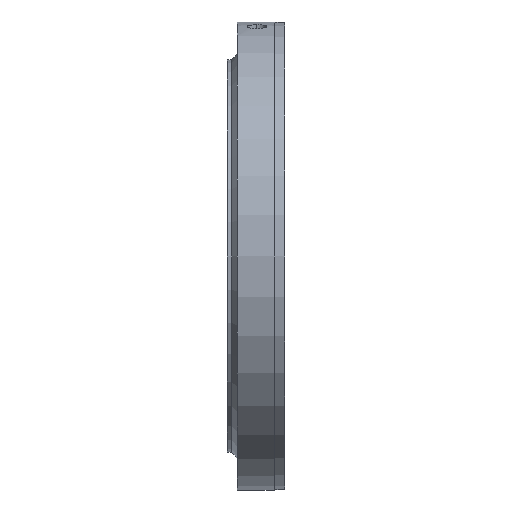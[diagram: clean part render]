
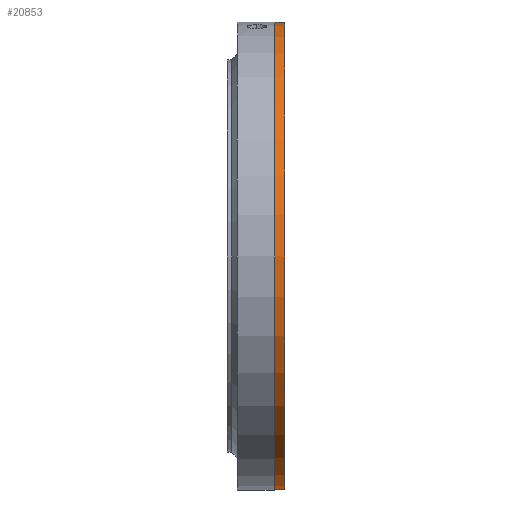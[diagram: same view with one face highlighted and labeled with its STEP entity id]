
A CAD part, left-side view. The second image highlights one B-rep face of the part: STEP entity #20853.
In plain terms, the highlighted cylindrical face has radius 237 mm (diameter 474 mm), a partial arc.
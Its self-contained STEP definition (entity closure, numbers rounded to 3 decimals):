
#1145 = VERTEX_POINT ( 'NONE', #7453 ) ;
#2892 = EDGE_CURVE ( 'NONE', #21639, #1145, #13272, .T. ) ;
#4400 = CARTESIAN_POINT ( 'NONE',  ( 0., -1.866, 0. ) ) ;
#4692 = EDGE_LOOP ( 'NONE', ( #14580, #10938, #22767, #5162 ) ) ;
#4969 = EDGE_CURVE ( 'NONE', #8798, #20807, #19828, .T. ) ;
#5040 = CARTESIAN_POINT ( 'NONE',  ( 0., 0., 0. ) ) ;
#5162 = ORIENTED_EDGE ( 'NONE', *, *, #4969, .F. ) ;
#6302 = CARTESIAN_POINT ( 'NONE',  ( 0., -1.866, 237. ) ) ;
#6772 = VECTOR ( 'NONE', #17110, 1000. ) ;
#6967 = LINE ( 'NONE', #21009, #6772 ) ;
#7453 = CARTESIAN_POINT ( 'NONE',  ( 0., 8.134, -237. ) ) ;
#8702 = DIRECTION ( 'NONE',  ( 0., 0., -1. ) ) ;
#8798 = VERTEX_POINT ( 'NONE', #6302 ) ;
#9643 = VECTOR ( 'NONE', #18759, 1000. ) ;
#9689 = CARTESIAN_POINT ( 'NONE',  ( 0., 8.134, 237. ) ) ;
#9706 = DIRECTION ( 'NONE',  ( 0., 0., -1. ) ) ;
#10938 = ORIENTED_EDGE ( 'NONE', *, *, #2892, .T. ) ;
#10942 = AXIS2_PLACEMENT_3D ( 'NONE', #5040, #19096, #8702 ) ;
#11450 = DIRECTION ( 'NONE',  ( 0., -1., 0. ) ) ;
#13178 = CARTESIAN_POINT ( 'NONE',  ( 0., 8.134, 0. ) ) ;
#13272 = CIRCLE ( 'NONE', #13641, 237. ) ;
#13335 = LINE ( 'NONE', #14966, #9643 ) ;
#13583 = AXIS2_PLACEMENT_3D ( 'NONE', #4400, #15334, #15103 ) ;
#13641 = AXIS2_PLACEMENT_3D ( 'NONE', #13178, #11450, #9706 ) ;
#13673 = FACE_OUTER_BOUND ( 'NONE', #4692, .T. ) ;
#14580 = ORIENTED_EDGE ( 'NONE', *, *, #15758, .F. ) ;
#14966 = CARTESIAN_POINT ( 'NONE',  ( 0., 0., 237. ) ) ;
#15103 = DIRECTION ( 'NONE',  ( 0., 0., -1. ) ) ;
#15281 = EDGE_CURVE ( 'NONE', #1145, #20807, #6967, .T. ) ;
#15334 = DIRECTION ( 'NONE',  ( 0., -1., 0. ) ) ;
#15758 = EDGE_CURVE ( 'NONE', #21639, #8798, #13335, .T. ) ;
#17110 = DIRECTION ( 'NONE',  ( 0., -1., 0. ) ) ;
#18759 = DIRECTION ( 'NONE',  ( 0., -1., 0. ) ) ;
#19096 = DIRECTION ( 'NONE',  ( 0., -1., 0. ) ) ;
#19828 = CIRCLE ( 'NONE', #13583, 237. ) ;
#20807 = VERTEX_POINT ( 'NONE', #22544 ) ;
#20816 = CYLINDRICAL_SURFACE ( 'NONE', #10942, 237. ) ;
#20853 = ADVANCED_FACE ( 'NONE', ( #13673 ), #20816, .T. ) ;
#21009 = CARTESIAN_POINT ( 'NONE',  ( 0., 0., -237. ) ) ;
#21639 = VERTEX_POINT ( 'NONE', #9689 ) ;
#22544 = CARTESIAN_POINT ( 'NONE',  ( 0., -1.866, -237. ) ) ;
#22767 = ORIENTED_EDGE ( 'NONE', *, *, #15281, .T. ) ;
